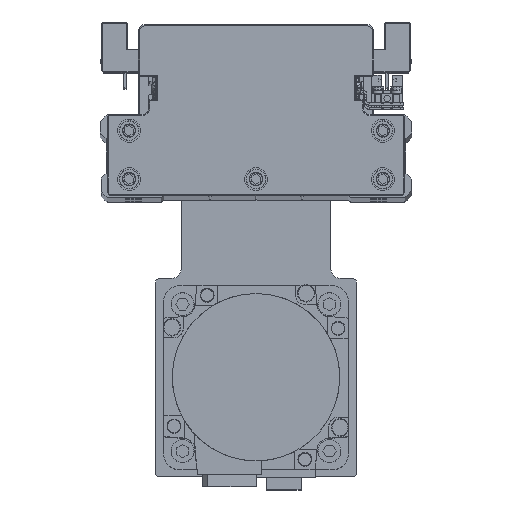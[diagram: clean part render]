
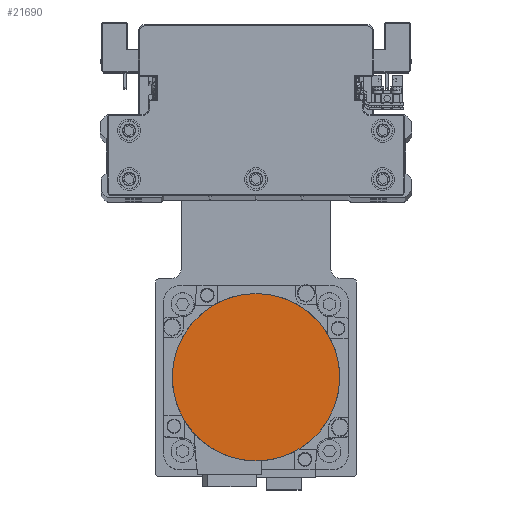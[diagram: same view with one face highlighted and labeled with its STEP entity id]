
A CAD part, top view. The second image highlights one B-rep face of the part: STEP entity #21690.
In plain terms, the highlighted planar face has unit normal (0, 0, 1) as drawn and (0, 0, -1) by its records, which use the part's own axes.
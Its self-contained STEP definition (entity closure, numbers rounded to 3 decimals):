
#896 = AXIS2_PLACEMENT_3D ( 'NONE', #2199, #14711, #27256 ) ;
#2199 = CARTESIAN_POINT ( 'NONE',  ( 0., 0., -122.2 ) ) ;
#2406 = CARTESIAN_POINT ( 'NONE',  ( 0., 0., -122.2 ) ) ;
#2720 = CARTESIAN_POINT ( 'NONE',  ( 0., 36.3, -122.2 ) ) ;
#6289 = CIRCLE ( 'NONE', #29251, 36.3 ) ;
#9242 = AXIS2_PLACEMENT_3D ( 'NONE', #10744, #23301, #35829 ) ;
#10744 = CARTESIAN_POINT ( 'NONE',  ( 0., 0., -122.2 ) ) ;
#11189 = EDGE_CURVE ( 'NONE', #14785, #19234, #26976, .T. ) ;
#14711 = DIRECTION ( 'NONE',  ( 0., 0., 1. ) ) ;
#14785 = VERTEX_POINT ( 'NONE', #2720 ) ;
#14917 = DIRECTION ( 'NONE',  ( 0., 0., 1. ) ) ;
#17785 = FACE_OUTER_BOUND ( 'NONE', #23419, .T. ) ;
#19234 = VERTEX_POINT ( 'NONE', #34770 ) ;
#21690 = ADVANCED_FACE ( 'NONE', ( #17785 ), #30342, .F. ) ;
#23301 = DIRECTION ( 'NONE',  ( 0., 0., 1. ) ) ;
#23419 = EDGE_LOOP ( 'NONE', ( #40278, #27640 ) ) ;
#26976 = CIRCLE ( 'NONE', #9242, 36.3 ) ;
#27256 = DIRECTION ( 'NONE',  ( 1., 0., 0. ) ) ;
#27464 = DIRECTION ( 'NONE',  ( 0., -1., 0. ) ) ;
#27640 = ORIENTED_EDGE ( 'NONE', *, *, #38356, .F. ) ;
#29251 = AXIS2_PLACEMENT_3D ( 'NONE', #2406, #14917, #27464 ) ;
#30342 = PLANE ( 'NONE',  #896 ) ;
#34770 = CARTESIAN_POINT ( 'NONE',  ( 0., -36.3, -122.2 ) ) ;
#35829 = DIRECTION ( 'NONE',  ( 0., 1., 0. ) ) ;
#38356 = EDGE_CURVE ( 'NONE', #19234, #14785, #6289, .T. ) ;
#40278 = ORIENTED_EDGE ( 'NONE', *, *, #11189, .F. ) ;
